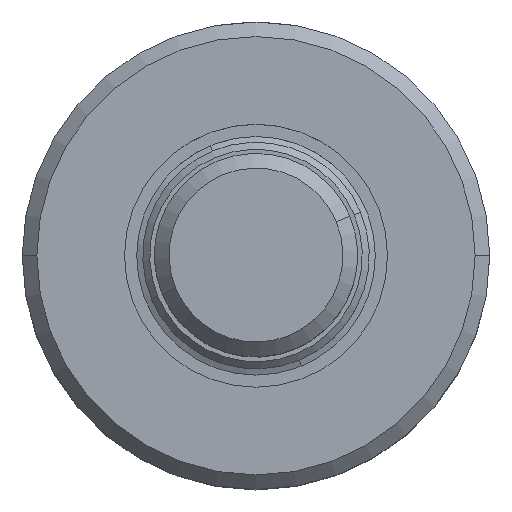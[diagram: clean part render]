
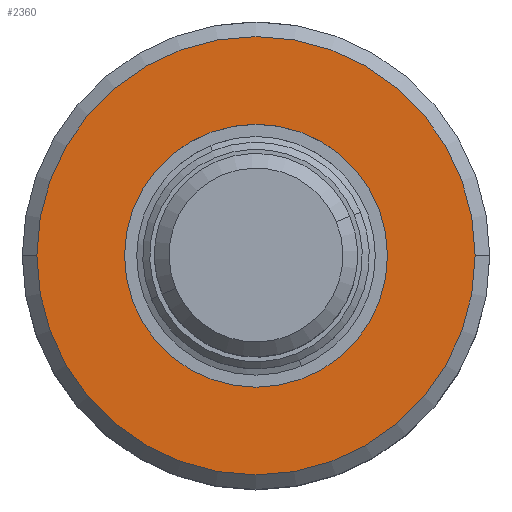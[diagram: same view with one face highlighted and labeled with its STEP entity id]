
A CAD part, top view. The second image highlights one B-rep face of the part: STEP entity #2360.
In plain terms, the highlighted planar face has unit normal (0, 0, 1).
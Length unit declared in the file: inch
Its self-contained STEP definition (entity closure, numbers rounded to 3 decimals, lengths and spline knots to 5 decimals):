
#13 = ORIENTED_EDGE ( 'NONE', *, *, #2386, .T. ) ;
#74 = AXIS2_PLACEMENT_3D ( 'NONE', #525, #296, #324 ) ;
#75 = DIRECTION ( 'NONE',  ( 0., 0., 1. ) ) ;
#82 = FACE_OUTER_BOUND ( 'NONE', #629, .T. ) ;
#117 = CARTESIAN_POINT ( 'NONE',  ( 0.09118, 0.50936, 0.62899 ) ) ;
#118 = EDGE_CURVE ( 'NONE', #2123, #2078, #1922, .T. ) ;
#124 = DIRECTION ( 'NONE',  ( 0., 0., -1. ) ) ;
#138 = CARTESIAN_POINT ( 'NONE',  ( 1.02868, -0.05314, 0.62899 ) ) ;
#143 = CIRCLE ( 'NONE', #438, 0.9375 ) ;
#193 = CARTESIAN_POINT ( 'NONE',  ( -0.84632, -0.05314, 0.62899 ) ) ;
#279 = EDGE_LOOP ( 'NONE', ( #1097, #1951 ) ) ;
#293 = AXIS2_PLACEMENT_3D ( 'NONE', #117, #124, #1544 ) ;
#296 = DIRECTION ( 'NONE',  ( 0., 0., 1. ) ) ;
#324 = DIRECTION ( 'NONE',  ( 1., 0., 0. ) ) ;
#438 = AXIS2_PLACEMENT_3D ( 'NONE', #2399, #1167, #2608 ) ;
#525 = CARTESIAN_POINT ( 'NONE',  ( 0.09118, -0.05314, 0.62899 ) ) ;
#527 = PLANE ( 'NONE',  #293 ) ;
#629 = EDGE_LOOP ( 'NONE', ( #1569, #13 ) ) ;
#653 = CIRCLE ( 'NONE', #1451, 0.5625 ) ;
#655 = EDGE_CURVE ( 'NONE', #1971, #2389, #714, .T. ) ;
#668 = EDGE_CURVE ( 'NONE', #2078, #2123, #653, .T. ) ;
#714 = CIRCLE ( 'NONE', #1477, 0.9375 ) ;
#1097 = ORIENTED_EDGE ( 'NONE', *, *, #668, .F. ) ;
#1101 = CARTESIAN_POINT ( 'NONE',  ( 0.09118, -0.05314, 0.62899 ) ) ;
#1167 = DIRECTION ( 'NONE',  ( 0., 0., 1. ) ) ;
#1306 = CARTESIAN_POINT ( 'NONE',  ( 0.09118, -0.05314, 0.62899 ) ) ;
#1318 = DIRECTION ( 'NONE',  ( 1., 0., 0. ) ) ;
#1451 = AXIS2_PLACEMENT_3D ( 'NONE', #1101, #2549, #1318 ) ;
#1477 = AXIS2_PLACEMENT_3D ( 'NONE', #1306, #75, #1497 ) ;
#1497 = DIRECTION ( 'NONE',  ( -1., 0., 0. ) ) ;
#1544 = DIRECTION ( 'NONE',  ( -1., 0., 0. ) ) ;
#1569 = ORIENTED_EDGE ( 'NONE', *, *, #655, .T. ) ;
#1757 = CARTESIAN_POINT ( 'NONE',  ( 0.65368, -0.05314, 0.62899 ) ) ;
#1786 = CARTESIAN_POINT ( 'NONE',  ( -0.47132, -0.05314, 0.62899 ) ) ;
#1922 = CIRCLE ( 'NONE', #74, 0.5625 ) ;
#1951 = ORIENTED_EDGE ( 'NONE', *, *, #118, .F. ) ;
#1971 = VERTEX_POINT ( 'NONE', #193 ) ;
#2078 = VERTEX_POINT ( 'NONE', #1757 ) ;
#2123 = VERTEX_POINT ( 'NONE', #1786 ) ;
#2273 = FACE_BOUND ( 'NONE', #279, .T. ) ;
#2360 = ADVANCED_FACE ( 'NONE', ( #82, #2273 ), #527, .F. ) ;
#2386 = EDGE_CURVE ( 'NONE', #2389, #1971, #143, .T. ) ;
#2389 = VERTEX_POINT ( 'NONE', #138 ) ;
#2399 = CARTESIAN_POINT ( 'NONE',  ( 0.09118, -0.05314, 0.62899 ) ) ;
#2549 = DIRECTION ( 'NONE',  ( 0., 0., 1. ) ) ;
#2608 = DIRECTION ( 'NONE',  ( -1., 0., 0. ) ) ;
